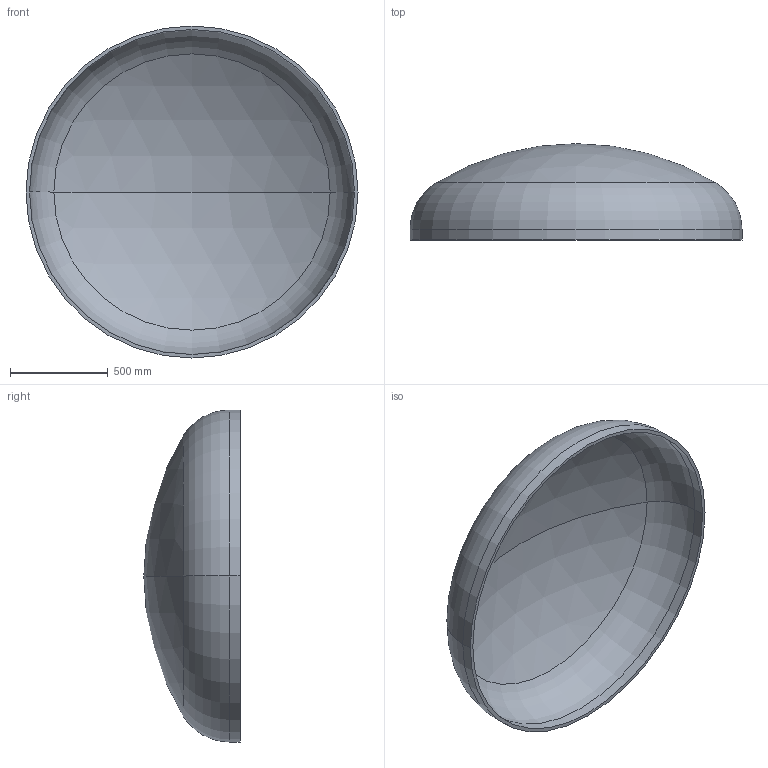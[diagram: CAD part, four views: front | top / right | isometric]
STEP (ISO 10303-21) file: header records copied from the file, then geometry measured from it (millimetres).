
FILE_DESCRIPTION (( 'STEP AP203' ), '1' );
FILE_NAME ('DIN 28013 Korbbogenform_-_Boden DIN 28013 - 1700 x 55 - I - s=18.step', '2016-07-01T11:39:43', ( '' ), ( '' ), 'SwSTEP 2.0', 'SolidWorks 2013', '' );
FILE_SCHEMA (( 'CONFIG_CONTROL_DESIGN' ));
Length unit declared in the file: millimetre
Products named in the file (1): DIN 28013 Korbbogenform_-_Boden DIN 28013 - 1700 x 55 - I - s=18
Bounding box: 1700 x 493.42 x 1700 mm (x, y, z)
Volume: 60954759 mm3; surface area: 6868542 mm2
Topology: 1 solids, 1 shells, 13 faces, 24 edges, 14 vertices
Faces by surface type: torus 4, cylinder 4, sphere 4, plane 1
Entity records: 407 total; most frequent: DIRECTION 72, CARTESIAN_POINT 52, ORIENTED_EDGE 48, AXIS2_PLACEMENT_3D 34, EDGE_CURVE 24, CIRCLE 20, EDGE_LOOP 14, VERTEX_POINT 14
